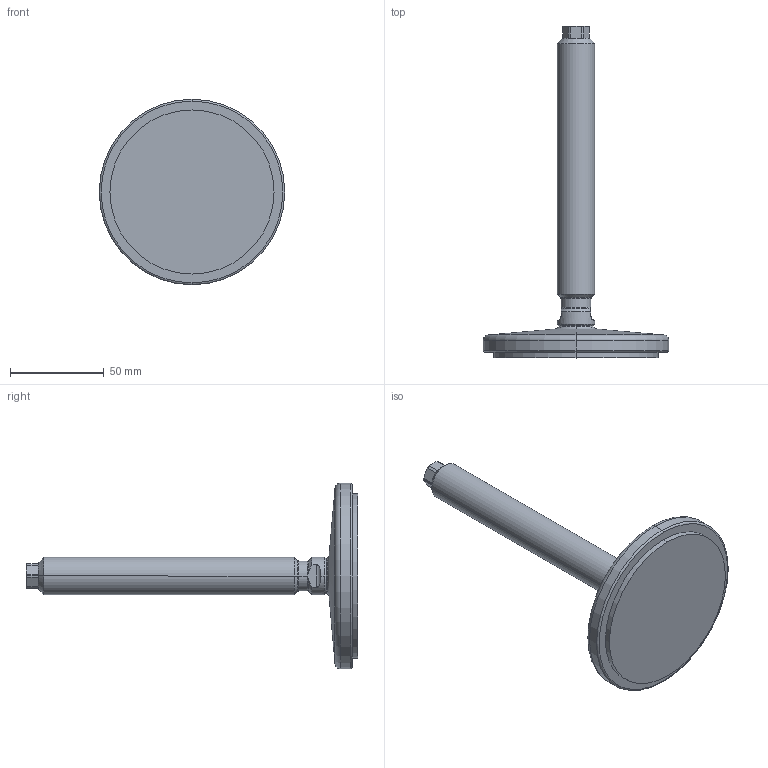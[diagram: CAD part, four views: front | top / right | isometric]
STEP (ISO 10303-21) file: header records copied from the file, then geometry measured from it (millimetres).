
FILE_DESCRIPTION (( 'STEP AP214' ), '1' );
FILE_NAME ('21-100-M20-150-D1-V.step', '2020-10-02T17:37:13', ( '' ), ( '' ), 'SwSTEP 2.0', 'SolidWorks 2019', '' );
FILE_SCHEMA (( 'AUTOMOTIVE_DESIGN' ));
Length unit declared in the file: millimetre
Products named in the file (3): 21-100-M20-150-D1-V; WB21_Fußteller 21^WB21_V_D1-100-R12-B9 (M20); WB21_Spindel_V^WB21_V_M20-150
Assembly tree (2 placements, depth 2):
  21-100-M20-150-D1-V
    WB21_Fußteller 21^WB21_V_D1-100-R12-B9 (M20)
    WB21_Spindel_V^WB21_V_M20-150
Bounding box: 99 x 177.02 x 99 mm (x, y, z)
Volume: 146111.3 mm3; surface area: 29374.2 mm2
Topology: 2 solids, 2 shells, 76 faces, 171 edges, 101 vertices
Faces by surface type: cylinder 25, plane 20, cone 17, torus 10, sphere 4
Entity records: 2387 total; most frequent: CARTESIAN_POINT 505, DIRECTION 390, ORIENTED_EDGE 342, EDGE_CURVE 171, AXIS2_PLACEMENT_3D 166, VERTEX_POINT 101, CIRCLE 85, EDGE_LOOP 78
